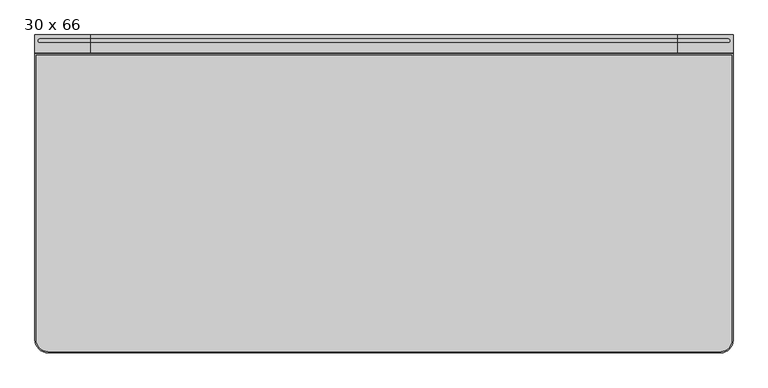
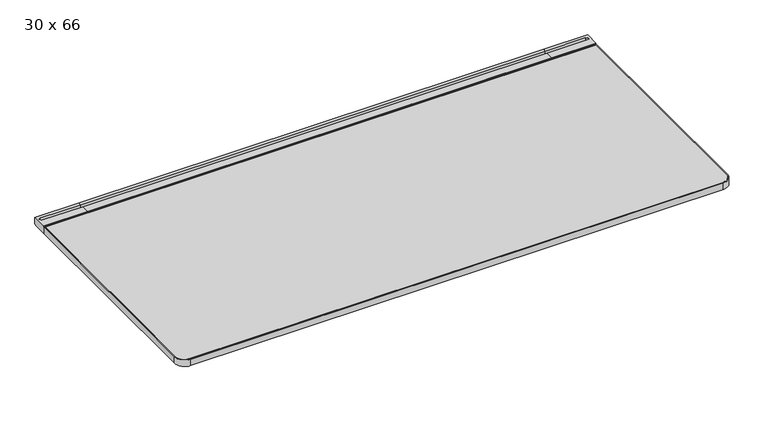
"""IFC4 building model written with IfcOpenShell, lengths in millimetres: furniture geometry, Steelcase - C Scape - Desking - Straight : 30 x 66."""

from ifc_helpers import new_model, si_unit, point, frame, frame_2d, origin, place, context, project, spatial, polyline, circle_curve, trimmed, segment, composite_curve, outline, extrude, faceted_brep, source, transform, mapped, element, save
from ifc_brep_helpers import plane_surface, cylinder_surface, revolved_surface, advanced_brep


def furniture_30_x_66_994145db(model_context):
    return source(origin(), model_context, "Body", "SolidModel", [
        advanced_brep(
        [(1541.8562243, -45.3135132, 703.3768), (1541.8562243, -45.3135132, 722.4268341), (1541.8562243, -42.7750923, 722.4268341), (1541.8562243, -42.7750923, 725.932), (1541.8562243, -19.3290527, 725.932), (1541.8562243, -19.3290527, 713.486), (1541.8562243, -8.5111084, 713.486), (1541.8562243, -8.5111084, 725.932), (1541.8562243, 0.0, 725.932), (1541.8562243, 0.0, 705.1038636), (1541.8562243, -3.2278472, 705.1038636), (1541.8562243, -4.0331902, 703.3768), (1674.8760119, -45.3135132, 703.3768), (1674.8760119, -4.0331902, 703.3768), (1674.8760119, -3.2278472, 705.1038636), (1674.8760119, 0.0, 705.1038636), (1674.8760119, 0.0, 725.932), (1674.8760119, -42.7750923, 725.932), (1674.8760119, -42.7750923, 722.4268341), (1674.8760119, -45.3135132, 722.4268341), (1663.1139392, -8.5111084, 725.932), (1663.1139392, -19.3290527, 725.932), (1663.1139392, -19.3290527, 713.486), (1663.1139392, -8.5111084, 713.486)],
        [
            (0, 1),
            (1, 2),
            (2, 3),
            (3, 4),
            (4, 5),
            (5, 6),
            (6, 7),
            (7, 8),
            (8, 9),
            (9, 10),
            (10, 11),
            (11, 0),
            (12, 13),
            (13, 14),
            (14, 15),
            (15, 16),
            (16, 17),
            (17, 18),
            (18, 19),
            (19, 12),
            (11, 13),
            (12, 0),
            (10, 14),
            (9, 15),
            (8, 16),
            (7, 20),
            (20, 21, circle_curve(frame((1663.1139392, -13.9200806, 725.932), z_axis=(0.0, 0.0, -1.0), x_axis=(-1.0, 0.0, 0.0)), 5.4089722)),
            (21, 4),
            (3, 17),
            (2, 18),
            (1, 19),
            (5, 22),
            (22, 23, circle_curve(frame((1663.1139392, -13.9200806, 713.486), z_axis=(0.0, 0.0, 1.0), x_axis=(-1.0, 0.0, 0.0)), 5.4089722)),
            (23, 6),
            (23, 20),
            (22, 21),
        ],
        [
            plane_surface(frame((1541.8562243, -45.3135132, 703.3768), z_axis=(-1.0, 0.0, 0.0), x_axis=(0.0, 1.0, 0.0))),
            plane_surface(frame((1674.8760119, -45.3135132, 703.3768), z_axis=(1.0, 0.0, 0.0), x_axis=(0.0, -1.0, 0.0))),
            plane_surface(frame((1541.8562243, -45.3135132, 703.3768), z_axis=(0.0, 0.0, -1.0), x_axis=(1.0, 0.0, 0.0))),
            plane_surface(frame((1541.8562243, -4.0331902, 703.3768), z_axis=(0.0, 0.9063077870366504, -0.4226182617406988), x_axis=(1.0, 0.0, 0.0))),
            plane_surface(frame((1541.8562243, -3.2278472, 705.1038636), z_axis=(0.0, 0.0, -1.0), x_axis=(1.0, 0.0, 0.0))),
            plane_surface(frame((1541.8562243, 0.0, 705.1038636), z_axis=(0.0, 1.0, 0.0), x_axis=(1.0, 0.0, 0.0))),
            plane_surface(frame((1541.8562243, 0.0, 725.932), z_axis=(0.0, 0.0, 1.0), x_axis=(1.0, 0.0, 0.0))),
            plane_surface(frame((1541.8562243, -42.7750923, 725.932), z_axis=(0.0, -1.0, 0.0), x_axis=(1.0, 0.0, 0.0))),
            plane_surface(frame((1541.8562243, -42.7750923, 722.4268341), z_axis=(0.0, 0.0, 1.0), x_axis=(1.0, 0.0, 0.0))),
            plane_surface(frame((1541.8562243, -45.3135132, 722.4268341), z_axis=(0.0, -1.0, 0.0), x_axis=(1.0, 0.0, 0.0))),
            plane_surface(frame((1663.1139392, -8.5111084, 713.486), z_axis=(0.0, 0.0, 1.0), x_axis=(-1.0, 0.0, 0.0))),
            plane_surface(frame((1541.8562243, -8.5111084, 731.2180541), z_axis=(0.0, -1.0, 0.0), x_axis=(0.0, 0.0, -1.0))),
            revolved_surface(polyline([(1657.704967, -13.9200806, 725.932), (1657.704967, -13.9200806, 713.486)]), (1663.1139392, -13.9200806, 713.486), (0.0, 0.0, 1.0)),
            plane_surface(frame((1663.1139392, -19.3290527, 731.2180541), z_axis=(0.0, 1.0, 0.0), x_axis=(0.0, 0.0, -1.0))),
        ],
        [
            (0, [[1, 2, 3, 4, 5, 6, 7, 8, 9, 10, 11, 12]]),
            (1, [[13, 14, 15, 16, 17, 18, 19, 20]]),
            (2, [[21, -13, 22, -12]]),
            (3, [[23, -14, -21, -11]]),
            (4, [[24, -15, -23, -10]]),
            (5, [[25, -16, -24, -9]]),
            (6, [[-25, -8, 26, 27, 28, -4, 29, -17]]),
            (7, [[30, -18, -29, -3]]),
            (8, [[31, -19, -30, -2]]),
            (9, [[-22, -20, -31, -1]]),
            (10, [[-6, 32, 33, 34]]),
            (11, [[35, -26, -7, -34]]),
            (12, [[36, -27, -35, -33]]),
            (13, [[-5, -28, -36, -32]]),
        ],
    ),
        faceted_brep([(1655.8252487, -565.0752923, 700.7093833), (1655.8252487, -565.0752923, 703.3768), (1541.8562243, -565.0752923, 703.3768), (1541.8562243, -565.0752923, 679.3263935), (1557.4903818, -565.0752923, 679.3263935), (1560.110924, -565.0752923, 693.4200291), (1641.5501391, -565.0752923, 693.4200291), (1655.8252487, -4.0331902, 700.7093833), (1641.5501391, -4.0331902, 693.4200291), (1560.110924, -4.0331902, 693.4200291), (1548.2046772, -4.0331902, 629.3866), (1541.8562243, -4.0331902, 629.3866), (1541.8562243, -4.0331902, 703.3768), (1655.8252487, -4.0331902, 703.3768), (1555.3251068, -376.5599397, 667.6812472), (1548.2046772, -364.1172546, 629.3866), (1541.8562243, -364.1172546, 629.3866), (1541.8562243, -376.5599397, 667.6812472)], [[[0, 1, 2, 3, 4, 5, 6]], [[7, 8, 9, 10, 11, 12, 13]], [[6, 8, 7, 0]], [[5, 9, 8, 6]], [[9, 5, 4, 14, 15, 10]], [[10, 15, 16, 11]], [[11, 16, 17, 3, 2, 12]], [[1, 13, 12, 2]], [[0, 7, 13, 1]], [[14, 4, 3, 17]], [[17, 16, 15, 14]]]),
        extrude(outline(composite_curve([segment(polyline([(-293.5216187, 657.3775839), (-559.0022133, 680.1371551)]), True, "CONTINUOUS"), segment(trimmed(circle_curve(frame_2d((-558.7581271, 682.9843154)), 2.8576039), [point((-559.0022133, 680.1371551))], [point((-561.5383043, 682.3236226))], False, "CARTESIAN"), True, "CONTINUOUS"), segment(polyline([(-561.5383043, 682.3236226), (-566.0887542, 701.4717905), (-557.8334441, 701.4717905), (-557.8334441, 703.3768), (-442.6683806, 703.3768), (-442.6683806, 696.3917953), (-318.2108611, 696.3917953), (-318.2108611, 703.3768), (-293.5216187, 703.3768), (-293.5216187, 657.3775839)]), True, "CONTINUOUS")], self_intersect=False)), frame((801.624, 0.0, 0.0), z_axis=(1.0, 0.0, 0.0), x_axis=(0.0, 1.0, 0.0)), (0.0, 0.0, 1.0), 73.152),
        advanced_brep(
        [(134.6072876, -45.3135132, 703.3768), (134.6072876, -4.0331902, 703.3768), (134.6072876, -3.2278472, 705.1038636), (134.6072876, 0.0, 705.1038636), (134.6072876, 0.0, 725.932), (134.6072876, -8.5111084, 725.932), (134.6072876, -8.5111084, 713.486), (134.6072876, -19.3290527, 713.486), (134.6072876, -19.3290527, 725.932), (134.6072876, -42.7750923, 725.932), (134.6072876, -42.7750923, 722.4268341), (134.6072876, -45.3135132, 722.4268341), (1.5875, -45.3135132, 703.3768), (1.5875, -45.3135132, 722.4268341), (1.5875, -42.7750923, 722.4268341), (1.5875, -42.7750923, 725.932), (1.5875, 0.0, 725.932), (1.5875, 0.0, 705.1038636), (1.5875, -3.2278472, 705.1038636), (1.5875, -4.0331902, 703.3768), (13.3495728, -19.3290527, 725.932), (13.3495728, -8.5111084, 725.932), (13.3495728, -8.5111084, 713.486), (13.3495728, -19.3290527, 713.486)],
        [
            (0, 1),
            (1, 2),
            (2, 3),
            (3, 4),
            (4, 5),
            (5, 6),
            (6, 7),
            (7, 8),
            (8, 9),
            (9, 10),
            (10, 11),
            (11, 0),
            (12, 13),
            (13, 14),
            (14, 15),
            (15, 16),
            (16, 17),
            (17, 18),
            (18, 19),
            (19, 12),
            (0, 12),
            (19, 1),
            (18, 2),
            (17, 3),
            (16, 4),
            (15, 9),
            (8, 20),
            (20, 21, circle_curve(frame((13.3495728, -13.9200806, 725.932), z_axis=(0.0, 0.0, -1.0), x_axis=(1.0, 0.0, 0.0)), 5.4089722)),
            (21, 5),
            (14, 10),
            (13, 11),
            (6, 22),
            (22, 23, circle_curve(frame((13.3495728, -13.9200806, 713.486), z_axis=(0.0, 0.0, 1.0), x_axis=(1.0, 0.0, 0.0)), 5.4089722)),
            (23, 7),
            (21, 22),
            (20, 23),
        ],
        [
            plane_surface(frame((134.6072876, -45.3135132, 703.3768), z_axis=(1.0, 0.0, 0.0), x_axis=(0.0, 1.0, 0.0))),
            plane_surface(frame((1.5875, -45.3135132, 703.3768), z_axis=(-1.0, 0.0, 0.0), x_axis=(0.0, -1.0, 0.0))),
            plane_surface(frame((134.6072876, -45.3135132, 703.3768), z_axis=(0.0, 0.0, -1.0), x_axis=(-1.0, 0.0, 0.0))),
            plane_surface(frame((134.6072876, -4.0331902, 703.3768), z_axis=(0.0, 0.9063077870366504, -0.4226182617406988), x_axis=(-1.0, 0.0, 0.0))),
            plane_surface(frame((134.6072876, -3.2278472, 705.1038636), z_axis=(0.0, 0.0, -1.0), x_axis=(-1.0, 0.0, 0.0))),
            plane_surface(frame((134.6072876, 0.0, 705.1038636), z_axis=(0.0, 1.0, 0.0), x_axis=(-1.0, 0.0, 0.0))),
            plane_surface(frame((134.6072876, 0.0, 725.932), z_axis=(0.0, 0.0, 1.0), x_axis=(-1.0, 0.0, 0.0))),
            plane_surface(frame((134.6072876, -42.7750923, 725.932), z_axis=(0.0, -1.0, 0.0), x_axis=(-1.0, 0.0, 0.0))),
            plane_surface(frame((134.6072876, -42.7750923, 722.4268341), z_axis=(0.0, 0.0, 1.0), x_axis=(-1.0, 0.0, 0.0))),
            plane_surface(frame((134.6072876, -45.3135132, 722.4268341), z_axis=(0.0, -1.0, 0.0), x_axis=(-1.0, 0.0, 0.0))),
            plane_surface(frame((13.3495728, -8.5111084, 713.486), z_axis=(0.0, 0.0, 1.0), x_axis=(1.0, 0.0, 0.0))),
            plane_surface(frame((134.6072876, -8.5111084, 731.2180541), z_axis=(0.0, -1.0, 0.0), x_axis=(0.0, 0.0, -1.0))),
            revolved_surface(polyline([(18.758545, -13.9200806, 725.932), (18.758545, -13.9200806, 713.486)]), (13.3495728, -13.9200806, 713.486), (0.0, 0.0, 1.0)),
            plane_surface(frame((13.3495728, -19.3290527, 731.2180541), z_axis=(0.0, 1.0, 0.0), x_axis=(0.0, 0.0, -1.0))),
        ],
        [
            (0, [[1, 2, 3, 4, 5, 6, 7, 8, 9, 10, 11, 12]]),
            (1, [[13, 14, 15, 16, 17, 18, 19, 20]]),
            (2, [[-1, 21, -20, 22]]),
            (3, [[-2, -22, -19, 23]]),
            (4, [[-3, -23, -18, 24]]),
            (5, [[-4, -24, -17, 25]]),
            (6, [[-16, 26, -9, 27, 28, 29, -5, -25]]),
            (7, [[-10, -26, -15, 30]]),
            (8, [[-11, -30, -14, 31]]),
            (9, [[-12, -31, -13, -21]]),
            (10, [[32, 33, 34, -7]]),
            (11, [[-32, -6, -29, 35]]),
            (12, [[-33, -35, -28, 36]]),
            (13, [[-34, -36, -27, -8]]),
        ],
    ),
        faceted_brep([(20.6382632, -565.0752923, 700.7093833), (34.9133728, -565.0752923, 693.4200291), (116.3525879, -565.0752923, 693.4200291), (118.9731301, -565.0752923, 679.3263935), (134.6072876, -565.0752923, 679.3263935), (134.6072876, -565.0752923, 703.3768), (20.6382632, -565.0752923, 703.3768), (20.6382632, -4.0331902, 700.7093833), (20.6382632, -4.0331902, 703.3768), (134.6072876, -4.0331902, 703.3768), (134.6072876, -4.0331902, 629.3866), (128.2588347, -4.0331902, 629.3866), (116.3525879, -4.0331902, 693.4200291), (34.9133728, -4.0331902, 693.4200291), (128.2588347, -364.1172546, 629.3866), (121.1384051, -376.5599397, 667.6812472), (134.6072876, -364.1172546, 629.3866), (134.6072876, -376.5599397, 667.6812472)], [[[0, 1, 2, 3, 4, 5, 6]], [[7, 8, 9, 10, 11, 12, 13]], [[1, 0, 7, 13]], [[2, 1, 13, 12]], [[12, 11, 14, 15, 3, 2]], [[11, 10, 16, 14]], [[10, 9, 5, 4, 17, 16]], [[6, 5, 9, 8]], [[0, 6, 8, 7]], [[15, 17, 4, 3]], [[17, 15, 14, 16]]]),
        extrude(outline(polyline([(-8.5111084, 725.932), (0.0, 725.932), (0.0, 705.1038636), (-3.2278472, 705.1038636), (-4.0331902, 703.3768), (-45.3135132, 703.3768), (-45.3135132, 722.4268341), (-42.7750923, 722.4268341), (-42.7750923, 725.932), (-19.3290527, 725.932), (-19.3290527, 713.486), (-8.5111084, 713.486), (-8.5111084, 725.932)])), frame((134.6072876, 0.0, 0.0), z_axis=(1.0, 0.0, 0.0), x_axis=(0.0, 1.0, 0.0)), (0.0, 0.0, 1.0), 1407.2489367),
        extrude(outline(polyline([(134.6072876, -293.5216187), (134.6072876, -4.0331902), (1541.8562243, -4.0331902), (1541.8562243, -293.5216187), (134.6072876, -293.5216187)])), frame((0.0, 0.0, 629.3866), z_axis=(0.0, 0.0, 1.0), x_axis=(1.0, 0.0, 0.0)), (0.0, 0.0, 1.0), 73.9902),
        advanced_brep(
        [(4.6355, -48.3660689, 723.9), (4.6355, -730.25, 723.9), (33.3375, -758.9490234, 723.9), (1645.0737019, -758.9490234, 723.9), (1671.8273608, -732.1953645, 723.9), (1671.8273608, -48.3660689, 723.9), (4.6355, -48.3660689, 703.3768), (1671.8273608, -48.3660689, 703.3768), (1671.8273608, -732.1953645, 703.3768), (1645.0737019, -758.9490234, 703.3768), (33.3375, -758.9490234, 703.3768), (4.6384766, -730.25, 703.3768)],
        [
            (0, 1),
            (1, 2, circle_curve(frame((33.3375, -730.25, 723.9), z_axis=(0.0, 0.0, 1.0), x_axis=(1.0, 0.0, 0.0)), 28.6990234)),
            (2, 3),
            (3, 4, circle_curve(frame((1645.0737019, -732.1953645, 723.9), z_axis=(0.0, 0.0, 1.0), x_axis=(1.0, 0.0, 0.0)), 26.7536589)),
            (4, 5),
            (5, 0),
            (6, 7),
            (7, 8),
            (8, 9, circle_curve(frame((1645.0737019, -732.1953645, 703.3768), z_axis=(0.0, 0.0, -1.0), x_axis=(1.0, 0.0, 0.0)), 26.7536589)),
            (9, 10),
            (10, 11, circle_curve(frame((33.3375, -730.25, 703.3768), z_axis=(0.0, 0.0, -1.0), x_axis=(1.0, 0.0, 0.0)), 28.6990234)),
            (11, 6),
            (0, 6),
            (11, 1),
            (10, 2),
            (9, 3),
            (8, 4),
            (7, 5),
        ],
        [
            plane_surface(frame((4.6355, -48.3660689, 723.9), z_axis=(0.0, 0.0, 1.0), x_axis=(0.0, -1.0, 0.0))),
            plane_surface(frame((4.6355, -48.3660689, 703.3768), z_axis=(0.0, 0.0, -1.0), x_axis=(0.0, 1.0, 0.0))),
            plane_surface(frame((4.6355, -48.3660689, 723.9), z_axis=(-1.0, 0.0, 0.0), x_axis=(0.0, 0.0, -1.0))),
            cylinder_surface(frame((33.3375, -730.25, 703.3768), z_axis=(0.0, 0.0, 1.0), x_axis=(1.0, 0.0, 0.0)), 28.6990234),
            plane_surface(frame((33.3375, -758.9490234, 723.9), z_axis=(0.0, -1.0, 0.0), x_axis=(0.0, 0.0, -1.0))),
            cylinder_surface(frame((1645.0737019, -732.1953645, 703.3768), z_axis=(0.0, 0.0, 1.0), x_axis=(1.0, 0.0, 0.0)), 26.7536589),
            plane_surface(frame((1671.8273608, -732.1953645, 723.9), z_axis=(1.0, 0.0, 0.0), x_axis=(0.0, 0.0, -1.0))),
            plane_surface(frame((1671.8273608, -48.3660689, 723.9), z_axis=(0.0, 1.0, 0.0), x_axis=(0.0, 0.0, -1.0))),
        ],
        [
            (0, [[1, 2, 3, 4, 5, 6]]),
            (1, [[7, 8, 9, 10, 11, 12]]),
            (2, [[-1, 13, -12, 14]]),
            (3, [[-2, -14, -11, 15]]),
            (4, [[-3, -15, -10, 16]]),
            (5, [[-4, -16, -9, 17]]),
            (6, [[-5, -17, -8, 18]]),
            (7, [[-6, -18, -7, -13]]),
        ],
    ),
        extrude(outline(composite_curve([segment(trimmed(circle_curve(frame_2d((33.3375, -730.25)), 31.75), [point((33.3375, -762.0))], [point((1.5875, -730.25))], False, "CARTESIAN"), True, "CONTINUOUS"), segment(polyline([(1.5875, -730.25), (1.5875, -45.3150923), (1674.876, -45.3150923), (1674.876, -732.1250374)]), True, "CONTINUOUS"), segment(trimmed(circle_curve(frame_2d((1645.0010374, -732.1250374)), 29.8749626), [point((1674.876, -732.1250374))], [point((1645.0010374, -762.0))], False, "CARTESIAN"), True, "CONTINUOUS"), segment(polyline([(1645.0010374, -762.0), (33.3375, -762.0)]), True, "CONTINUOUS")], self_intersect=False), holes=[composite_curve([segment(polyline([(1671.8250234, -48.3660689), (4.6384766, -48.3660689), (4.6384766, -730.25)]), True, "CONTINUOUS"), segment(trimmed(circle_curve(frame_2d((33.3375, -730.25)), 28.6990234), [point((4.6384766, -730.25))], [point((33.3375, -758.9490234))], True, "CARTESIAN"), True, "CONTINUOUS"), segment(polyline([(33.3375, -758.9490234), (1645.0010374, -758.9490234)]), True, "CONTINUOUS"), segment(trimmed(circle_curve(frame_2d((1645.0010374, -732.1250374)), 26.8239861), [point((1645.0010374, -758.9490234))], [point((1671.8250234, -732.1250374))], True, "CARTESIAN"), True, "CONTINUOUS"), segment(polyline([(1671.8250234, -732.1250374), (1671.8250234, -48.3660689)]), True, "CONTINUOUS")], self_intersect=False)]), frame((0.0, 0.0, 703.3768), z_axis=(0.0, 0.0, 1.0), x_axis=(1.0, 0.0, 0.0)), (0.0, 0.0, 1.0), 20.5232),
    ])


if __name__ == "__main__":
    model = new_model("IFC4")
    model_context = context("Model", 3, world=origin())
    ifc_project = project(units=[si_unit("LENGTHUNIT", "METRE", prefix="MILLI")], contexts=[model_context])
    site = spatial("IfcSite", under=ifc_project)
    building = spatial("IfcBuilding", under=site)
    placement = place(None, origin())
    furniture_30_x_66_shape = furniture_30_x_66_994145db(model_context)
    element("IfcFurniture", 1, ObjectType="Steelcase - C Scape - Desking - Straight : 30 x 66", at=placement, inside=building, context=model_context, shape_type="MappedRepresentation", body=[
        mapped(furniture_30_x_66_shape, transform((0.0, 0.0, 0.0), x_axis=(1.0, 0.0, 0.0), y_axis=(0.0, 1.0, 0.0), z_axis=(0.0, 0.0, 1.0))),
    ])
    save(model, "model.ifc")
